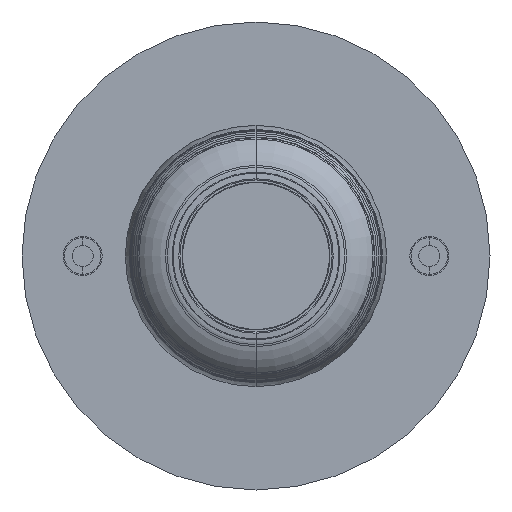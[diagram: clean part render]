
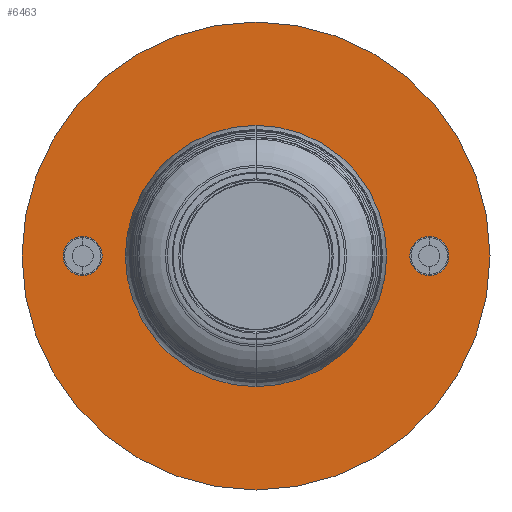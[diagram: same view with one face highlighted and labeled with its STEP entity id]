
A CAD part, front view. The second image highlights one B-rep face of the part: STEP entity #6463.
In plain terms, the highlighted planar face has unit normal (0, -1, 0).
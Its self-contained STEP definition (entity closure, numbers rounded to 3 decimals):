
#25 = CIRCLE ( 'NONE', #359, 60. ) ;
#125 = PLANE ( 'NONE',  #4374 ) ;
#173 = CIRCLE ( 'NONE', #2963, 60. ) ;
#359 = AXIS2_PLACEMENT_3D ( 'NONE', #7164, #5493, #6465 ) ;
#627 = ORIENTED_EDGE ( 'NONE', *, *, #2906, .F. ) ;
#735 = FACE_BOUND ( 'NONE', #6124, .T. ) ;
#910 = ORIENTED_EDGE ( 'NONE', *, *, #3948, .F. ) ;
#975 = AXIS2_PLACEMENT_3D ( 'NONE', #4054, #1952, #5203 ) ;
#994 = CIRCLE ( 'NONE', #5422, 4.7 ) ;
#1151 = DIRECTION ( 'NONE',  ( 0., -1., 0. ) ) ;
#1175 = CARTESIAN_POINT ( 'NONE',  ( 44.45, -1., -4.7 ) ) ;
#1206 = CIRCLE ( 'NONE', #975, 5.05 ) ;
#1290 = CARTESIAN_POINT ( 'NONE',  ( 44.45, -1., 0. ) ) ;
#1480 = EDGE_LOOP ( 'NONE', ( #6856, #5365 ) ) ;
#1729 = VERTEX_POINT ( 'NONE', #4470 ) ;
#1740 = VERTEX_POINT ( 'NONE', #6706 ) ;
#1812 = VERTEX_POINT ( 'NONE', #2177 ) ;
#1834 = FACE_BOUND ( 'NONE', #2191, .T. ) ;
#1952 = DIRECTION ( 'NONE',  ( 0., 1., 0. ) ) ;
#1980 = EDGE_LOOP ( 'NONE', ( #627, #910 ) ) ;
#2079 = EDGE_CURVE ( 'NONE', #5682, #1729, #3047, .T. ) ;
#2082 = DIRECTION ( 'NONE',  ( 0., 0., -1. ) ) ;
#2172 = EDGE_CURVE ( 'NONE', #4620, #7090, #5618, .T. ) ;
#2177 = CARTESIAN_POINT ( 'NONE',  ( 44.45, -1., 4.7 ) ) ;
#2190 = ORIENTED_EDGE ( 'NONE', *, *, #2172, .T. ) ;
#2191 = EDGE_LOOP ( 'NONE', ( #3474, #5262 ) ) ;
#2244 = CARTESIAN_POINT ( 'NONE',  ( 0., -1., 0. ) ) ;
#2533 = DIRECTION ( 'NONE',  ( 0., 0., -1. ) ) ;
#2550 = CARTESIAN_POINT ( 'NONE',  ( 0., -1., -60. ) ) ;
#2906 = EDGE_CURVE ( 'NONE', #1740, #6588, #25, .T. ) ;
#2963 = AXIS2_PLACEMENT_3D ( 'NONE', #3762, #6480, #5982 ) ;
#3047 = CIRCLE ( 'NONE', #7115, 4.7 ) ;
#3356 = CARTESIAN_POINT ( 'NONE',  ( 0., -1., 5.05 ) ) ;
#3463 = CARTESIAN_POINT ( 'NONE',  ( 0., -1., 0. ) ) ;
#3474 = ORIENTED_EDGE ( 'NONE', *, *, #5346, .F. ) ;
#3487 = ORIENTED_EDGE ( 'NONE', *, *, #3898, .T. ) ;
#3565 = DIRECTION ( 'NONE',  ( 0., 0., -1. ) ) ;
#3641 = DIRECTION ( 'NONE',  ( 0., -1., 0. ) ) ;
#3688 = CARTESIAN_POINT ( 'NONE',  ( 44.45, -1., 0. ) ) ;
#3762 = CARTESIAN_POINT ( 'NONE',  ( 0., -1., 0. ) ) ;
#3898 = EDGE_CURVE ( 'NONE', #7090, #4620, #1206, .T. ) ;
#3918 = DIRECTION ( 'NONE',  ( 0., 0., -1. ) ) ;
#3948 = EDGE_CURVE ( 'NONE', #6588, #1740, #173, .T. ) ;
#4054 = CARTESIAN_POINT ( 'NONE',  ( 0., -1., 0. ) ) ;
#4374 = AXIS2_PLACEMENT_3D ( 'NONE', #3463, #4564, #3565 ) ;
#4466 = CARTESIAN_POINT ( 'NONE',  ( -44.45, -1., 4.7 ) ) ;
#4470 = CARTESIAN_POINT ( 'NONE',  ( -44.45, -1., -4.7 ) ) ;
#4475 = DIRECTION ( 'NONE',  ( 0., 1., 0. ) ) ;
#4558 = EDGE_CURVE ( 'NONE', #1812, #5774, #5407, .T. ) ;
#4564 = DIRECTION ( 'NONE',  ( 0., -1., 0. ) ) ;
#4620 = VERTEX_POINT ( 'NONE', #3356 ) ;
#4709 = AXIS2_PLACEMENT_3D ( 'NONE', #3688, #3641, #5898 ) ;
#4723 = AXIS2_PLACEMENT_3D ( 'NONE', #1290, #5828, #2533 ) ;
#4854 = CARTESIAN_POINT ( 'NONE',  ( 0., -1., -5.05 ) ) ;
#5014 = EDGE_CURVE ( 'NONE', #1729, #5682, #994, .T. ) ;
#5118 = FACE_BOUND ( 'NONE', #1480, .T. ) ;
#5191 = CIRCLE ( 'NONE', #4723, 4.7 ) ;
#5203 = DIRECTION ( 'NONE',  ( 0., 0., -1. ) ) ;
#5262 = ORIENTED_EDGE ( 'NONE', *, *, #4558, .F. ) ;
#5282 = CARTESIAN_POINT ( 'NONE',  ( -44.45, -1., 0. ) ) ;
#5346 = EDGE_CURVE ( 'NONE', #5774, #1812, #5191, .T. ) ;
#5365 = ORIENTED_EDGE ( 'NONE', *, *, #2079, .F. ) ;
#5407 = CIRCLE ( 'NONE', #4709, 4.7 ) ;
#5422 = AXIS2_PLACEMENT_3D ( 'NONE', #5282, #5805, #2082 ) ;
#5493 = DIRECTION ( 'NONE',  ( 0., 1., 0. ) ) ;
#5618 = CIRCLE ( 'NONE', #6411, 5.05 ) ;
#5629 = CARTESIAN_POINT ( 'NONE',  ( -44.45, -1., 0. ) ) ;
#5682 = VERTEX_POINT ( 'NONE', #4466 ) ;
#5774 = VERTEX_POINT ( 'NONE', #1175 ) ;
#5805 = DIRECTION ( 'NONE',  ( 0., -1., 0. ) ) ;
#5828 = DIRECTION ( 'NONE',  ( 0., -1., 0. ) ) ;
#5898 = DIRECTION ( 'NONE',  ( 0., 0., -1. ) ) ;
#5982 = DIRECTION ( 'NONE',  ( 0., 0., -1. ) ) ;
#6124 = EDGE_LOOP ( 'NONE', ( #2190, #3487 ) ) ;
#6411 = AXIS2_PLACEMENT_3D ( 'NONE', #2244, #4475, #3918 ) ;
#6463 = ADVANCED_FACE ( 'NONE', ( #1834, #5118, #735, #6873 ), #125, .T. ) ;
#6465 = DIRECTION ( 'NONE',  ( 0., 0., -1. ) ) ;
#6480 = DIRECTION ( 'NONE',  ( 0., 1., 0. ) ) ;
#6565 = DIRECTION ( 'NONE',  ( 0., 0., -1. ) ) ;
#6588 = VERTEX_POINT ( 'NONE', #2550 ) ;
#6706 = CARTESIAN_POINT ( 'NONE',  ( 0., -1., 60. ) ) ;
#6856 = ORIENTED_EDGE ( 'NONE', *, *, #5014, .F. ) ;
#6873 = FACE_OUTER_BOUND ( 'NONE', #1980, .T. ) ;
#7090 = VERTEX_POINT ( 'NONE', #4854 ) ;
#7115 = AXIS2_PLACEMENT_3D ( 'NONE', #5629, #1151, #6565 ) ;
#7164 = CARTESIAN_POINT ( 'NONE',  ( 0., -1., 0. ) ) ;
